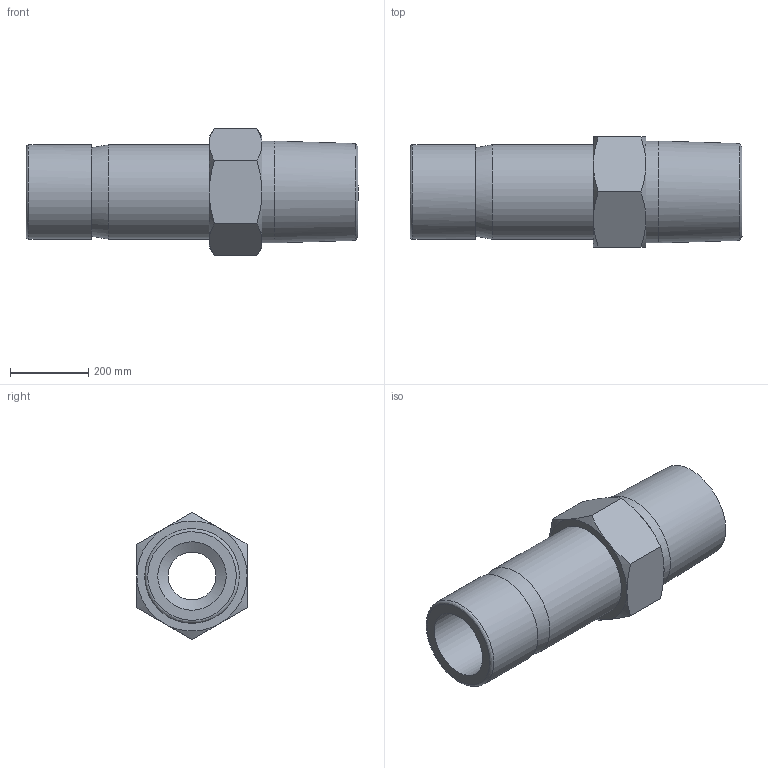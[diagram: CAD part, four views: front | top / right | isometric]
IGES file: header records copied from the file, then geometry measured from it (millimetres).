
Global section: file name: SMA-6-2N; native system: Autodesk Inventor 2016; preprocessor: unknown; author: DESIGNPC2; date: 20151221.094012; units: millimetre
Bounding box: 850.9 x 282.26 x 325.92 mm (x, y, z)
Volume: 27096392.1 mm3; surface area: 1193825.4 mm2
Topology: 1 solids, 1 shells, 34 faces, 84 edges, 55 vertices
Faces by surface type: bspline 34
